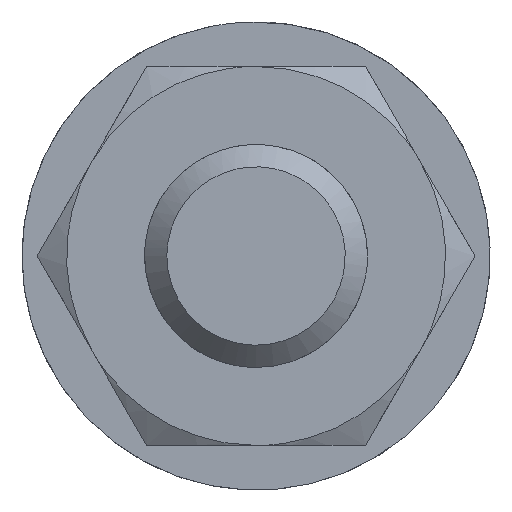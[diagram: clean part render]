
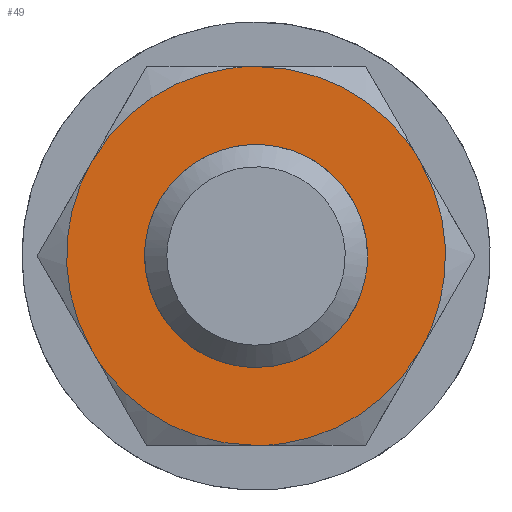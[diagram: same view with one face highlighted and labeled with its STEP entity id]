
A CAD part, left-side view. The second image highlights one B-rep face of the part: STEP entity #49.
In plain terms, the highlighted planar face has unit normal (-1, 0, 0).
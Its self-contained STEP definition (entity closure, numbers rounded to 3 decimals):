
#40=FACE_BOUND('',#138,.T.);
#49=ADVANCED_FACE('',(#92,#40),#663,.T.);
#92=FACE_OUTER_BOUND('',#137,.T.);
#137=EDGE_LOOP('',(#202,#203,#204,#205,#206,#207));
#138=EDGE_LOOP('',(#208,#209));
#202=ORIENTED_EDGE('',*,*,#405,.F.);
#203=ORIENTED_EDGE('',*,*,#407,.F.);
#204=ORIENTED_EDGE('',*,*,#408,.F.);
#205=ORIENTED_EDGE('',*,*,#406,.F.);
#206=ORIENTED_EDGE('',*,*,#404,.F.);
#207=ORIENTED_EDGE('',*,*,#403,.F.);
#208=ORIENTED_EDGE('',*,*,#393,.F.);
#209=ORIENTED_EDGE('',*,*,#391,.F.);
#391=EDGE_CURVE('',#608,#598,#518,.T.);
#393=EDGE_CURVE('',#598,#608,#519,.T.);
#403=EDGE_CURVE('',#602,#603,#527,.T.);
#404=EDGE_CURVE('',#603,#607,#528,.T.);
#405=EDGE_CURVE('',#604,#602,#529,.T.);
#406=EDGE_CURVE('',#607,#606,#530,.T.);
#407=EDGE_CURVE('',#605,#604,#531,.T.);
#408=EDGE_CURVE('',#606,#605,#532,.T.);
#518=(
BOUNDED_CURVE()
B_SPLINE_CURVE(2,(#1166,#1167,#1168,#1169,#1170),.UNSPECIFIED.,.F.,.F.)
B_SPLINE_CURVE_WITH_KNOTS((3,2,3),(15.708,23.561,31.415),
 .UNSPECIFIED.)
CURVE()
GEOMETRIC_REPRESENTATION_ITEM()
RATIONAL_B_SPLINE_CURVE((1.,0.707,1.,0.707,1.))
REPRESENTATION_ITEM('')
);
#519=(
BOUNDED_CURVE()
B_SPLINE_CURVE(2,(#1173,#1174,#1175,#1176,#1177),.UNSPECIFIED.,.F.,.F.)
B_SPLINE_CURVE_WITH_KNOTS((3,2,3),(0.,7.854,15.708),
 .UNSPECIFIED.)
CURVE()
GEOMETRIC_REPRESENTATION_ITEM()
RATIONAL_B_SPLINE_CURVE((1.,0.707,1.,0.707,1.))
REPRESENTATION_ITEM('')
);
#527=(
BOUNDED_CURVE()
B_SPLINE_CURVE(2,(#1215,#1216,#1217),.UNSPECIFIED.,.F.,.F.)
B_SPLINE_CURVE_WITH_KNOTS((3,3),(0.,8.901),.UNSPECIFIED.)
CURVE()
GEOMETRIC_REPRESENTATION_ITEM()
RATIONAL_B_SPLINE_CURVE((1.,0.866,1.))
REPRESENTATION_ITEM('')
);
#528=(
BOUNDED_CURVE()
B_SPLINE_CURVE(2,(#1218,#1219,#1220),.UNSPECIFIED.,.F.,.F.)
B_SPLINE_CURVE_WITH_KNOTS((3,3),(0.,8.901),.UNSPECIFIED.)
CURVE()
GEOMETRIC_REPRESENTATION_ITEM()
RATIONAL_B_SPLINE_CURVE((1.,0.866,1.))
REPRESENTATION_ITEM('')
);
#529=(
BOUNDED_CURVE()
B_SPLINE_CURVE(2,(#1221,#1222,#1223),.UNSPECIFIED.,.F.,.F.)
B_SPLINE_CURVE_WITH_KNOTS((3,3),(0.,8.901),.UNSPECIFIED.)
CURVE()
GEOMETRIC_REPRESENTATION_ITEM()
RATIONAL_B_SPLINE_CURVE((1.,0.866,1.))
REPRESENTATION_ITEM('')
);
#530=(
BOUNDED_CURVE()
B_SPLINE_CURVE(2,(#1224,#1225,#1226),.UNSPECIFIED.,.F.,.F.)
B_SPLINE_CURVE_WITH_KNOTS((3,3),(0.,8.901),.UNSPECIFIED.)
CURVE()
GEOMETRIC_REPRESENTATION_ITEM()
RATIONAL_B_SPLINE_CURVE((1.,0.866,1.))
REPRESENTATION_ITEM('')
);
#531=(
BOUNDED_CURVE()
B_SPLINE_CURVE(2,(#1227,#1228,#1229),.UNSPECIFIED.,.F.,.F.)
B_SPLINE_CURVE_WITH_KNOTS((3,3),(0.,8.901),.UNSPECIFIED.)
CURVE()
GEOMETRIC_REPRESENTATION_ITEM()
RATIONAL_B_SPLINE_CURVE((1.,0.866,1.))
REPRESENTATION_ITEM('')
);
#532=(
BOUNDED_CURVE()
B_SPLINE_CURVE(2,(#1230,#1231,#1232),.UNSPECIFIED.,.F.,.F.)
B_SPLINE_CURVE_WITH_KNOTS((3,3),(0.,8.901),.UNSPECIFIED.)
CURVE()
GEOMETRIC_REPRESENTATION_ITEM()
RATIONAL_B_SPLINE_CURVE((1.,0.866,1.))
REPRESENTATION_ITEM('')
);
#598=VERTEX_POINT('',#1134);
#602=VERTEX_POINT('',#1138);
#603=VERTEX_POINT('',#1139);
#604=VERTEX_POINT('',#1140);
#605=VERTEX_POINT('',#1141);
#606=VERTEX_POINT('',#1142);
#607=VERTEX_POINT('',#1143);
#608=VERTEX_POINT('',#1144);
#663=PLANE('',#777);
#777=AXIS2_PLACEMENT_3D('',#891,#803,$);
#803=DIRECTION('',(-1.,0.,0.));
#891=CARTESIAN_POINT('',(14.667,-11.898,10.32));
#1134=CARTESIAN_POINT('',(14.667,0.,-5.));
#1138=CARTESIAN_POINT('',(14.667,-7.361,4.25));
#1139=CARTESIAN_POINT('',(14.667,-7.361,-4.25));
#1140=CARTESIAN_POINT('',(14.667,0.,8.5));
#1141=CARTESIAN_POINT('',(14.667,7.361,4.25));
#1142=CARTESIAN_POINT('',(14.667,7.361,-4.25));
#1143=CARTESIAN_POINT('',(14.667,0.,-8.5));
#1144=CARTESIAN_POINT('',(14.667,0.,5.));
#1166=CARTESIAN_POINT('',(14.667,0.,5.));
#1167=CARTESIAN_POINT('',(14.667,5.,5.));
#1168=CARTESIAN_POINT('',(14.667,5.,0.));
#1169=CARTESIAN_POINT('',(14.667,5.,-5.));
#1170=CARTESIAN_POINT('',(14.667,0.,-5.));
#1173=CARTESIAN_POINT('',(14.667,0.,-5.));
#1174=CARTESIAN_POINT('',(14.667,-5.,-5.));
#1175=CARTESIAN_POINT('',(14.667,-5.,0.));
#1176=CARTESIAN_POINT('',(14.667,-5.,5.));
#1177=CARTESIAN_POINT('',(14.667,0.,5.));
#1215=CARTESIAN_POINT('',(14.667,-7.361,4.25));
#1216=CARTESIAN_POINT('',(14.667,-9.815,0.));
#1217=CARTESIAN_POINT('',(14.667,-7.361,-4.25));
#1218=CARTESIAN_POINT('',(14.667,-7.361,-4.25));
#1219=CARTESIAN_POINT('',(14.667,-4.907,-8.5));
#1220=CARTESIAN_POINT('',(14.667,0.,-8.5));
#1221=CARTESIAN_POINT('',(14.667,0.,8.5));
#1222=CARTESIAN_POINT('',(14.667,-4.907,8.5));
#1223=CARTESIAN_POINT('',(14.667,-7.361,4.25));
#1224=CARTESIAN_POINT('',(14.667,0.,-8.5));
#1225=CARTESIAN_POINT('',(14.667,4.907,-8.5));
#1226=CARTESIAN_POINT('',(14.667,7.361,-4.25));
#1227=CARTESIAN_POINT('',(14.667,7.361,4.25));
#1228=CARTESIAN_POINT('',(14.667,4.907,8.5));
#1229=CARTESIAN_POINT('',(14.667,0.,8.5));
#1230=CARTESIAN_POINT('',(14.667,7.361,-4.25));
#1231=CARTESIAN_POINT('',(14.667,9.815,0.));
#1232=CARTESIAN_POINT('',(14.667,7.361,4.25));
